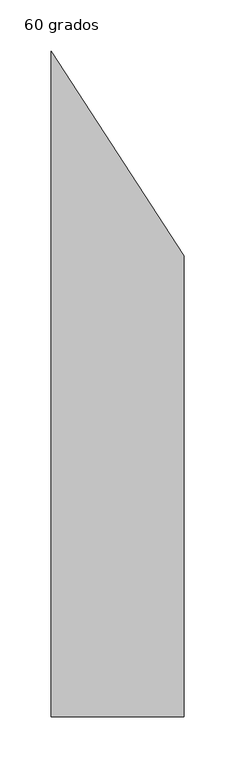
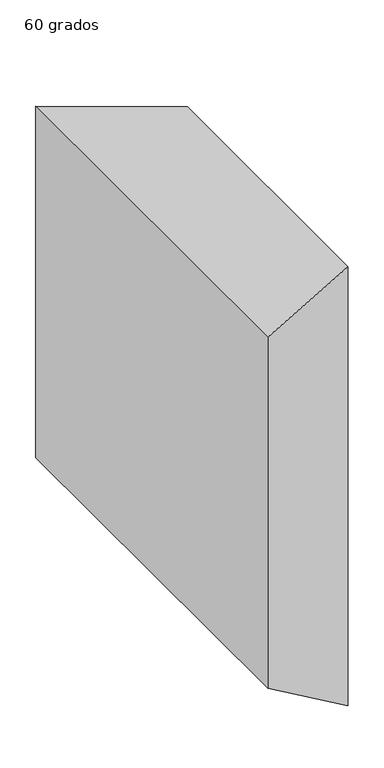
"""IFC4 building model written with IfcOpenShell, lengths in millimetres: duct fitting geometry, M_Transición rectangular - Ángulo : 60 grados."""

from ifc_helpers import new_model, si_unit, origin, place, context, project, spatial, faceted_brep, source, transform, mapped, element, save


def duct_fitting_60_grados_3a4ea4db(model_context):
    return source(origin(), model_context, "Body", "Brep", [
        faceted_brep([(129.9038106, -325.0, 375.0), (129.9038106, -325.0, -375.0), (129.9038106, 125.0, -375.0), (129.9038106, 125.0, 375.0), (0.0, -325.0, 300.0), (0.0, 325.0, 300.0), (0.0, 325.0, -300.0), (0.0, -325.0, -300.0)], [[[0, 1, 2, 3]], [[4, 5, 6, 7]], [[4, 7, 1, 0]], [[7, 6, 2, 1]], [[6, 5, 3, 2]], [[5, 4, 0, 3]]]),
    ])


if __name__ == "__main__":
    model = new_model("IFC4")
    model_context = context("Model", 3, world=origin())
    ifc_project = project(units=[si_unit("LENGTHUNIT", "METRE", prefix="MILLI")], contexts=[model_context])
    site = spatial("IfcSite", under=ifc_project)
    building = spatial("IfcBuilding", under=site)
    placement = place(None, origin())
    duct_fitting_60_grados_shape = duct_fitting_60_grados_3a4ea4db(model_context)
    element("IfcDuctFitting", 1, ObjectType="M_Transición rectangular - Ángulo : 60 grados", at=placement, inside=building, context=model_context, shape_type="MappedRepresentation", body=[
        mapped(duct_fitting_60_grados_shape, transform((0.0, 0.0, 0.0), x_axis=(1.0, 0.0, 0.0), y_axis=(0.0, 1.0, 0.0), z_axis=(0.0, 0.0, 1.0))),
    ])
    save(model, "model.ifc")
